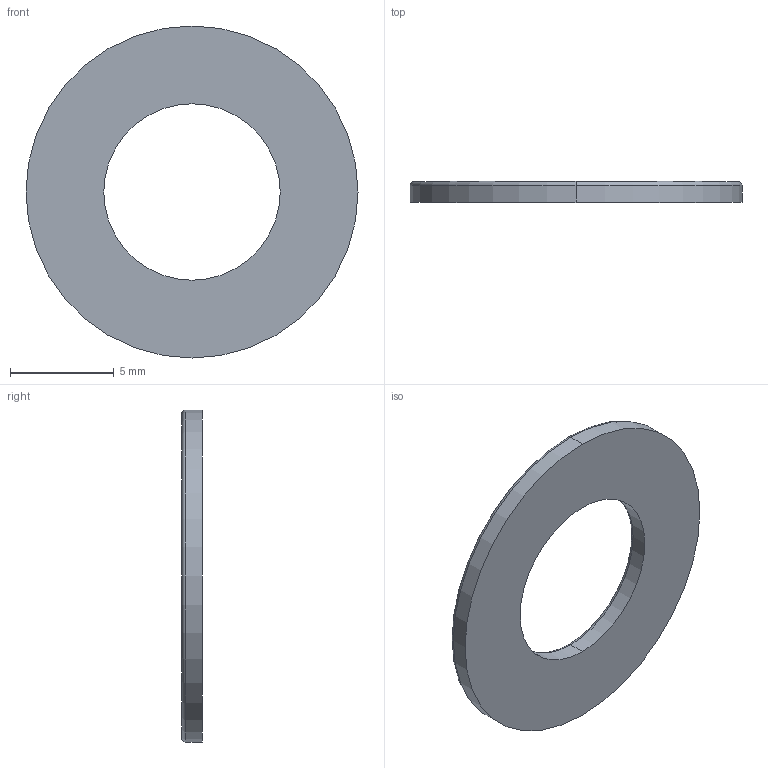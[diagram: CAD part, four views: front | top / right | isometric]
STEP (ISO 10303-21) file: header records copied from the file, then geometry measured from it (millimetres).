
FILE_DESCRIPTION (( 'STEP AP203' ), '1' );
FILE_NAME ('158-CE-FG-8.STEP', '2015-07-09T09:09:12', ( '' ), ( '' ), 'SwSTEP 2.0', 'SolidWorks 2013', '' );
FILE_SCHEMA (( 'CONFIG_CONTROL_DESIGN' ));
Length unit declared in the file: millimetre
Products named in the file (1): 158-CE-FG-8
Bounding box: 16 x 1 x 16 mm (x, y, z)
Volume: 143.7 mm3; surface area: 359 mm2
Topology: 1 solids, 1 shells, 10 faces, 20 edges, 12 vertices
Faces by surface type: torus 4, cylinder 4, plane 2
Entity records: 349 total; most frequent: DIRECTION 58, CARTESIAN_POINT 43, ORIENTED_EDGE 40, AXIS2_PLACEMENT_3D 27, EDGE_CURVE 20, CIRCLE 16, EDGE_LOOP 12, VERTEX_POINT 12
